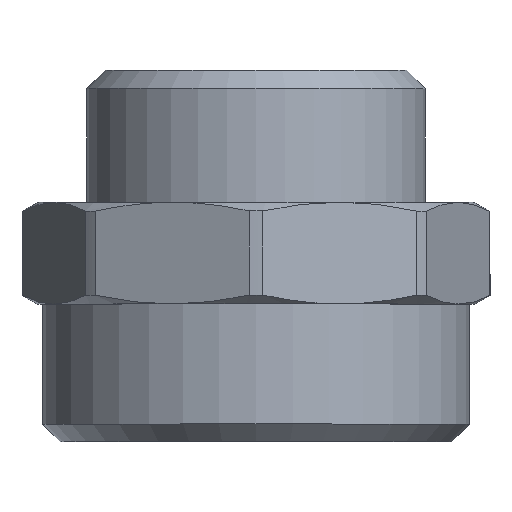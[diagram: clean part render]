
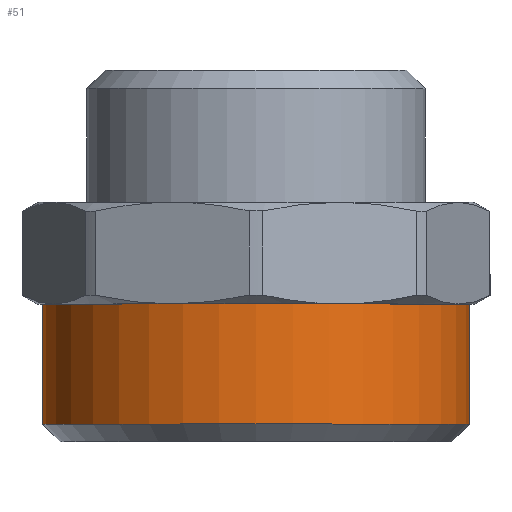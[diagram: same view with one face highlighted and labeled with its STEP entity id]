
A CAD part, top view. The second image highlights one B-rep face of the part: STEP entity #51.
In plain terms, the highlighted cylindrical face has radius 20.955 mm (diameter 41.91 mm), a full revolution.
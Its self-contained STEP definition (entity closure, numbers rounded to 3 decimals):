
#51=ADVANCED_FACE('',(#141,#143),#145,.T.);
#141=FACE_OUTER_BOUND('',#142,.T.);
#142=EDGE_LOOP('',(#358));
#143=FACE_OUTER_BOUND('',#144,.T.);
#144=EDGE_LOOP('',(#359));
#145=CYLINDRICAL_SURFACE('',#146,20.955);
#146=AXIS2_PLACEMENT_3D('',#147,#148,#149);
#147=CARTESIAN_POINT('',(0.,-5.,0.));
#148=DIRECTION('',(0.,-1.,0.));
#149=DIRECTION('',(1.,0.,0.));
#358=ORIENTED_EDGE('',*,*,#493,.T.);
#359=ORIENTED_EDGE('',*,*,#491,.F.);
#491=EDGE_CURVE('',#569,#569,#570,.T.);
#493=EDGE_CURVE('',#573,#573,#574,.T.);
#569=VERTEX_POINT('',#714);
#570=CIRCLE('',#715,20.955);
#573=VERTEX_POINT('',#724);
#574=CIRCLE('',#725,20.955);
#714=CARTESIAN_POINT('',(20.955,-16.8,0.));
#715=AXIS2_PLACEMENT_3D('',#716,#717,#718);
#716=CARTESIAN_POINT('',(0.,-16.8,0.));
#717=DIRECTION('',(0.,-1.,0.));
#718=DIRECTION('',(1.,0.,0.));
#724=CARTESIAN_POINT('',(20.955,-5.,0.));
#725=AXIS2_PLACEMENT_3D('',#726,#727,#728);
#726=CARTESIAN_POINT('',(0.,-5.,0.));
#727=DIRECTION('',(0.,-1.,0.));
#728=DIRECTION('',(1.,0.,0.));
